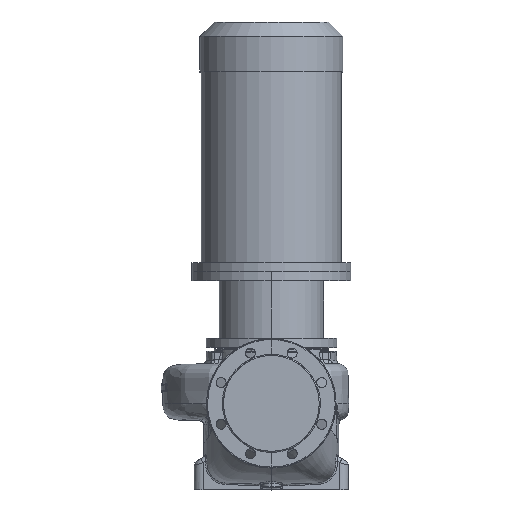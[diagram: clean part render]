
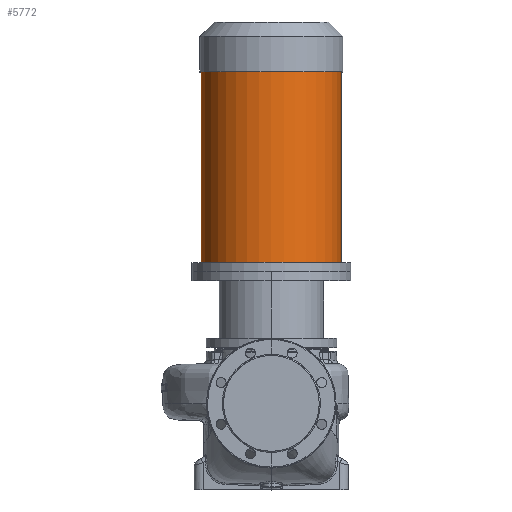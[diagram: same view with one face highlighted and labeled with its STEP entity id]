
A CAD part, top view. The second image highlights one B-rep face of the part: STEP entity #5772.
In plain terms, the highlighted cylindrical face has radius 154.5 mm (diameter 309 mm), a partial arc.
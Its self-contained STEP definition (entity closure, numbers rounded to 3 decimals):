
#1567 = EDGE_LOOP ( 'NONE', ( #4786, #59971, #57275, #78684 ) ) ;
#4786 = ORIENTED_EDGE ( 'NONE', *, *, #71287, .F. ) ;
#5772 = ADVANCED_FACE ( 'NONE', ( #57406 ), #54550, .T. ) ;
#7411 = DIRECTION ( 'NONE',  ( 0., -1., 0. ) ) ;
#7420 = CARTESIAN_POINT ( 'NONE',  ( 0., 730.8, 0. ) ) ;
#9169 = VERTEX_POINT ( 'NONE', #60534 ) ;
#12080 = CIRCLE ( 'NONE', #42119, 154.5 ) ;
#23678 = CARTESIAN_POINT ( 'NONE',  ( -154.5, 290.8, 0. ) ) ;
#25422 = DIRECTION ( 'NONE',  ( -1., 0., 0. ) ) ;
#28587 = EDGE_CURVE ( 'NONE', #72801, #72631, #12080, .T. ) ;
#30235 = CARTESIAN_POINT ( 'NONE',  ( 154.5, 730.8, 0. ) ) ;
#32898 = CARTESIAN_POINT ( 'NONE',  ( -154.5, 310.8, 0. ) ) ;
#39188 = CARTESIAN_POINT ( 'NONE',  ( 0., 310.8, 0. ) ) ;
#42119 = AXIS2_PLACEMENT_3D ( 'NONE', #7420, #44003, #73490 ) ;
#42578 = EDGE_CURVE ( 'NONE', #9169, #46815, #73806, .T. ) ;
#44003 = DIRECTION ( 'NONE',  ( 0., -1., 0. ) ) ;
#46651 = DIRECTION ( 'NONE',  ( 0., -1., 0. ) ) ;
#46815 = VERTEX_POINT ( 'NONE', #32898 ) ;
#46946 = CARTESIAN_POINT ( 'NONE',  ( -154.5, 730.8, 0. ) ) ;
#47575 = VECTOR ( 'NONE', #48628, 1000. ) ;
#47715 = VECTOR ( 'NONE', #60904, 1000. ) ;
#48628 = DIRECTION ( 'NONE',  ( 0., -1., 0. ) ) ;
#49105 = CARTESIAN_POINT ( 'NONE',  ( 0., 290.8, 0. ) ) ;
#53455 = LINE ( 'NONE', #66434, #47715 ) ;
#54550 = CYLINDRICAL_SURFACE ( 'NONE', #60767, 154.5 ) ;
#57066 = AXIS2_PLACEMENT_3D ( 'NONE', #39188, #46651, #58617 ) ;
#57275 = ORIENTED_EDGE ( 'NONE', *, *, #66844, .T. ) ;
#57406 = FACE_OUTER_BOUND ( 'NONE', #1567, .T. ) ;
#58617 = DIRECTION ( 'NONE',  ( -1., 0., 0. ) ) ;
#59971 = ORIENTED_EDGE ( 'NONE', *, *, #28587, .T. ) ;
#60534 = CARTESIAN_POINT ( 'NONE',  ( 154.5, 310.8, 0. ) ) ;
#60767 = AXIS2_PLACEMENT_3D ( 'NONE', #49105, #7411, #25422 ) ;
#60904 = DIRECTION ( 'NONE',  ( 0., -1., 0. ) ) ;
#64701 = LINE ( 'NONE', #23678, #47575 ) ;
#66434 = CARTESIAN_POINT ( 'NONE',  ( 154.5, 290.8, 0. ) ) ;
#66844 = EDGE_CURVE ( 'NONE', #72631, #46815, #64701, .T. ) ;
#71287 = EDGE_CURVE ( 'NONE', #72801, #9169, #53455, .T. ) ;
#72631 = VERTEX_POINT ( 'NONE', #46946 ) ;
#72801 = VERTEX_POINT ( 'NONE', #30235 ) ;
#73490 = DIRECTION ( 'NONE',  ( -1., 0., 0. ) ) ;
#73806 = CIRCLE ( 'NONE', #57066, 154.5 ) ;
#78684 = ORIENTED_EDGE ( 'NONE', *, *, #42578, .F. ) ;
